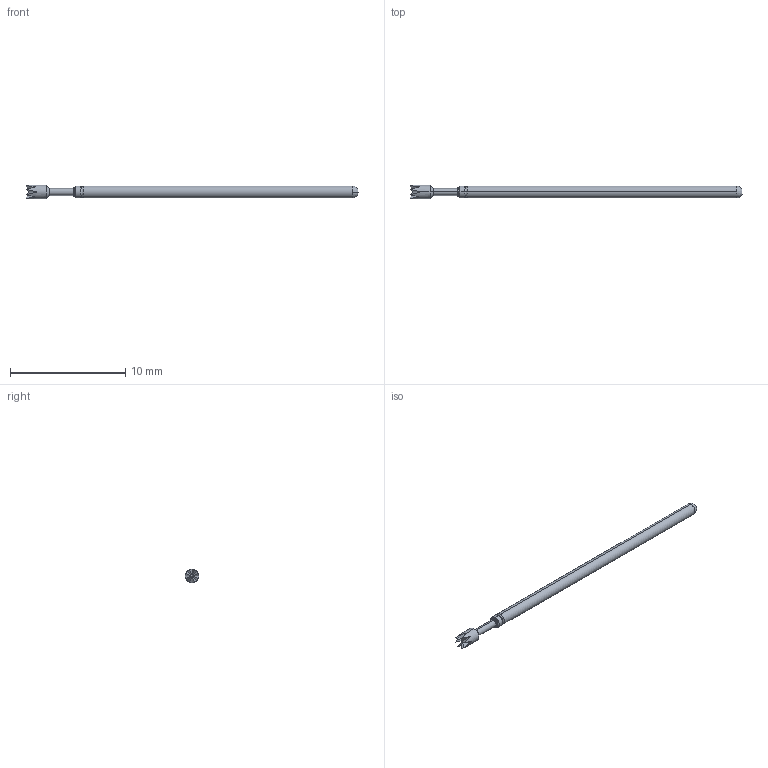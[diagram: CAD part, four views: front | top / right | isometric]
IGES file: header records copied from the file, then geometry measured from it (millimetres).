
Start section: SolidWorks IGES file using analytic representation for surfaces
Global section: file name: Z:\probe solid model mockups\Solidworks models\Parts\LFRE-1Z RECD.IGS; native system: SolidWorks 2016; preprocessor: SolidWorks 2016; author: mlee; date: 180927.164249; units: inch
Bounding box: 28.78 x 1.19 x 1.19 mm (x, y, z)
Surface area: 93.7 mm2 (no closed solid volume)
Topology: 0 solids, 0 shells, 38 faces, 210 edges, 210 vertices
Faces by surface type: bspline 22, revolution 16
